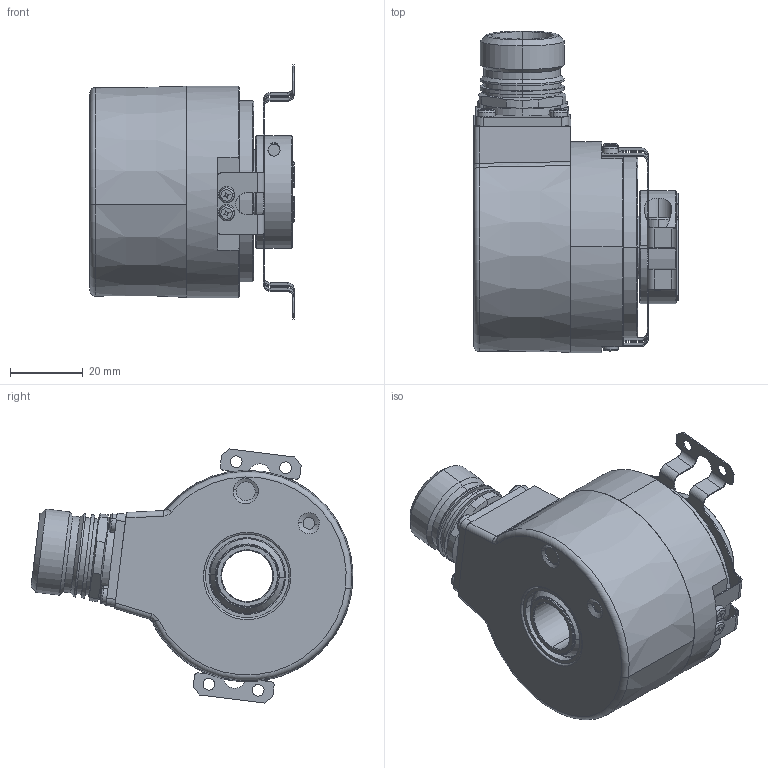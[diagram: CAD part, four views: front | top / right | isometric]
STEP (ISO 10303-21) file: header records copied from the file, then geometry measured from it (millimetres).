
FILE_DESCRIPTION (( 'STEP AP203' ), '1' );
FILE_NAME ('5834SIL.B5X4.XXXX.STEP', '2011-09-30T12:40:49', ( 'Hodot' ), ( 'Kuebler' ), 'SwSTEP 2.0', 'SolidWorks 2009', '' );
FILE_SCHEMA (( 'CONFIG_CONTROL_DESIGN' ));
Length unit declared in the file: millimetre
Products named in the file (1): 5834SIL.B5X4.XXXX
Bounding box: 56 x 88.28 x 69.69 mm (x, y, z)
Volume: 80290.3 mm3; surface area: 57324.4 mm2
Topology: 31 solids, 34 shells, 1506 faces, 3610 edges, 2195 vertices
Faces by surface type: cylinder 590, plane 452, cone 238, torus 122, sphere 68, bspline 36
Entity records: 48616 total; most frequent: CARTESIAN_POINT 13413, DIRECTION 7869, ORIENTED_EDGE 6944, EDGE_CURVE 3472, AXIS2_PLACEMENT_3D 3225, VERTEX_POINT 2159, CIRCLE 1754, EDGE_LOOP 1751
